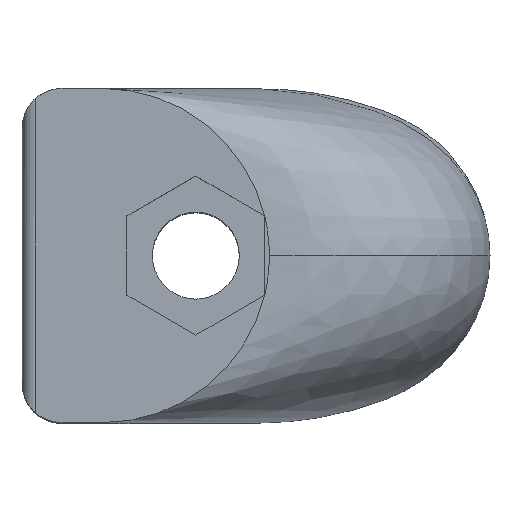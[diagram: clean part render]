
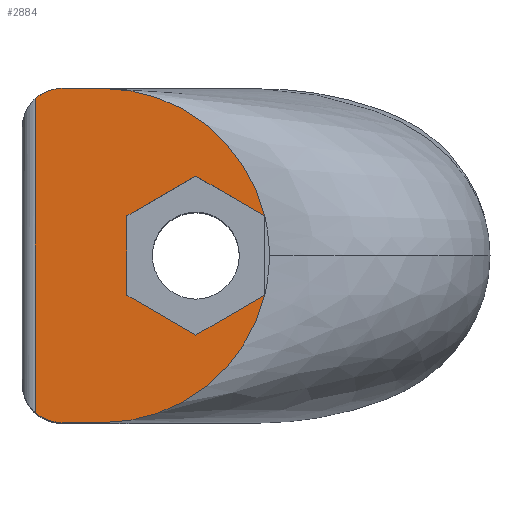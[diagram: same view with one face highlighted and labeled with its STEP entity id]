
A CAD part, top view. The second image highlights one B-rep face of the part: STEP entity #2884.
In plain terms, the highlighted planar face has unit normal (0, 0, 1) as drawn and (0, 0, -1) by its records, which use the part's own axes.
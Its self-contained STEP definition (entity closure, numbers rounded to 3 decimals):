
#12 = DIRECTION ( 'NONE',  ( 0., 0., -1. ) ) ;
#17 = EDGE_CURVE ( 'NONE', #816, #963, #1361, .T. ) ;
#152 = VERTEX_POINT ( 'NONE', #216 ) ;
#153 = VERTEX_POINT ( 'NONE', #1154 ) ;
#165 = ORIENTED_EDGE ( 'NONE', *, *, #1876, .F. ) ;
#207 = CARTESIAN_POINT ( 'NONE',  ( -10., -12.5, -20.15 ) ) ;
#213 = DIRECTION ( 'NONE',  ( 1., 0., 0. ) ) ;
#214 = CARTESIAN_POINT ( 'NONE',  ( 5.15, -2.973, -20.15 ) ) ;
#216 = CARTESIAN_POINT ( 'NONE',  ( 5.148, 2.966, -20.15 ) ) ;
#217 = LINE ( 'NONE', #2002, #1995 ) ;
#222 = CARTESIAN_POINT ( 'NONE',  ( -12., 11.736, -20.15 ) ) ;
#233 = AXIS2_PLACEMENT_3D ( 'NONE', #2518, #12, #2269 ) ;
#241 = AXIS2_PLACEMENT_3D ( 'NONE', #1383, #900, #2508 ) ;
#245 = EDGE_CURVE ( 'NONE', #652, #2352, #1376, .T. ) ;
#327 = VERTEX_POINT ( 'NONE', #1757 ) ;
#354 = CARTESIAN_POINT ( 'NONE',  ( 0., -5.947, -20.15 ) ) ;
#404 = CIRCLE ( 'NONE', #747, 12.5 ) ;
#429 = VERTEX_POINT ( 'NONE', #720 ) ;
#448 = CARTESIAN_POINT ( 'NONE',  ( 0., 5.947, -20.15 ) ) ;
#506 = AXIS2_PLACEMENT_3D ( 'NONE', #1348, #2050, #2516 ) ;
#528 = CARTESIAN_POINT ( 'NONE',  ( 5.146, -2.962, -20.15 ) ) ;
#561 = VECTOR ( 'NONE', #692, 1000. ) ;
#587 = ORIENTED_EDGE ( 'NONE', *, *, #1212, .F. ) ;
#601 = VERTEX_POINT ( 'NONE', #222 ) ;
#606 = VECTOR ( 'NONE', #213, 1000. ) ;
#620 = EDGE_CURVE ( 'NONE', #2352, #816, #2823, .T. ) ;
#652 = VERTEX_POINT ( 'NONE', #207 ) ;
#665 = LINE ( 'NONE', #2722, #1487 ) ;
#692 = DIRECTION ( 'NONE',  ( -0.866, -0.5, 0. ) ) ;
#720 = CARTESIAN_POINT ( 'NONE',  ( 0., 5.947, -20.15 ) ) ;
#747 = AXIS2_PLACEMENT_3D ( 'NONE', #2743, #1165, #1649 ) ;
#766 = EDGE_CURVE ( 'NONE', #2646, #601, #932, .T. ) ;
#797 = CARTESIAN_POINT ( 'NONE',  ( -10., -9.5, -20.15 ) ) ;
#798 = ORIENTED_EDGE ( 'NONE', *, *, #620, .F. ) ;
#816 = VERTEX_POINT ( 'NONE', #528 ) ;
#832 = ORIENTED_EDGE ( 'NONE', *, *, #1262, .F. ) ;
#900 = DIRECTION ( 'NONE',  ( 0., 0., 1. ) ) ;
#916 = CARTESIAN_POINT ( 'NONE',  ( -10., 12.5, -20.15 ) ) ;
#932 = LINE ( 'NONE', #2022, #1455 ) ;
#963 = VERTEX_POINT ( 'NONE', #354 ) ;
#969 = ORIENTED_EDGE ( 'NONE', *, *, #245, .F. ) ;
#1060 = CARTESIAN_POINT ( 'NONE',  ( -13., 12.5, -20.15 ) ) ;
#1073 = EDGE_CURVE ( 'NONE', #601, #2854, #2713, .T. ) ;
#1128 = DIRECTION ( 'NONE',  ( 0., 1., 0. ) ) ;
#1135 = CARTESIAN_POINT ( 'NONE',  ( -13., -12.5, -20.15 ) ) ;
#1139 = DIRECTION ( 'NONE',  ( -0.866, 0.5, 0. ) ) ;
#1154 = CARTESIAN_POINT ( 'NONE',  ( -7., 12.5, -20.15 ) ) ;
#1162 = CARTESIAN_POINT ( 'NONE',  ( -5.15, -2.973, -20.15 ) ) ;
#1165 = DIRECTION ( 'NONE',  ( 0., 0., 1. ) ) ;
#1212 = EDGE_CURVE ( 'NONE', #963, #1729, #217, .T. ) ;
#1232 = ORIENTED_EDGE ( 'NONE', *, *, #1073, .T. ) ;
#1259 = DIRECTION ( 'NONE',  ( -1., 0., 0. ) ) ;
#1262 = EDGE_CURVE ( 'NONE', #327, #429, #665, .T. ) ;
#1348 = CARTESIAN_POINT ( 'NONE',  ( -10., 9.5, -20.15 ) ) ;
#1350 = FACE_OUTER_BOUND ( 'NONE', #2579, .T. ) ;
#1361 = LINE ( 'NONE', #214, #561 ) ;
#1376 = LINE ( 'NONE', #1135, #606 ) ;
#1383 = CARTESIAN_POINT ( 'NONE',  ( -7., 0., -20.15 ) ) ;
#1384 = CARTESIAN_POINT ( 'NONE',  ( -7., -12.5, -20.15 ) ) ;
#1455 = VECTOR ( 'NONE', #1850, 1000. ) ;
#1464 = ORIENTED_EDGE ( 'NONE', *, *, #2275, .F. ) ;
#1482 = CARTESIAN_POINT ( 'NONE',  ( -12., -11.736, -20.15 ) ) ;
#1487 = VECTOR ( 'NONE', #1590, 1000. ) ;
#1561 = ORIENTED_EDGE ( 'NONE', *, *, #2444, .F. ) ;
#1590 = DIRECTION ( 'NONE',  ( 0.866, 0.5, 0. ) ) ;
#1633 = EDGE_CURVE ( 'NONE', #652, #2646, #1865, .T. ) ;
#1649 = DIRECTION ( 'NONE',  ( -1., 0., 0. ) ) ;
#1729 = VERTEX_POINT ( 'NONE', #2964 ) ;
#1757 = CARTESIAN_POINT ( 'NONE',  ( -5.15, 2.973, -20.15 ) ) ;
#1850 = DIRECTION ( 'NONE',  ( 0., 1., 0. ) ) ;
#1865 = CIRCLE ( 'NONE', #2949, 3. ) ;
#1876 = EDGE_CURVE ( 'NONE', #152, #153, #404, .T. ) ;
#1937 = EDGE_CURVE ( 'NONE', #429, #152, #2089, .T. ) ;
#1974 = ORIENTED_EDGE ( 'NONE', *, *, #17, .F. ) ;
#1991 = VECTOR ( 'NONE', #2276, 1000. ) ;
#1995 = VECTOR ( 'NONE', #1139, 1000. ) ;
#2002 = CARTESIAN_POINT ( 'NONE',  ( 0., -5.947, -20.15 ) ) ;
#2022 = CARTESIAN_POINT ( 'NONE',  ( -12., 0., -20.15 ) ) ;
#2050 = DIRECTION ( 'NONE',  ( 0., 0., -1. ) ) ;
#2085 = ORIENTED_EDGE ( 'NONE', *, *, #1937, .F. ) ;
#2089 = LINE ( 'NONE', #448, #1991 ) ;
#2184 = VECTOR ( 'NONE', #2873, 1000. ) ;
#2223 = ORIENTED_EDGE ( 'NONE', *, *, #766, .T. ) ;
#2269 = DIRECTION ( 'NONE',  ( -1., 0., 0. ) ) ;
#2275 = EDGE_CURVE ( 'NONE', #153, #2854, #2678, .T. ) ;
#2276 = DIRECTION ( 'NONE',  ( 0.866, -0.5, 0. ) ) ;
#2306 = LINE ( 'NONE', #1162, #2422 ) ;
#2352 = VERTEX_POINT ( 'NONE', #1384 ) ;
#2422 = VECTOR ( 'NONE', #1128, 1000. ) ;
#2444 = EDGE_CURVE ( 'NONE', #1729, #327, #2306, .T. ) ;
#2484 = ORIENTED_EDGE ( 'NONE', *, *, #1633, .T. ) ;
#2508 = DIRECTION ( 'NONE',  ( -1., 0., 0. ) ) ;
#2516 = DIRECTION ( 'NONE',  ( -1., 0., 0. ) ) ;
#2518 = CARTESIAN_POINT ( 'NONE',  ( -7., 0., -20.15 ) ) ;
#2579 = EDGE_LOOP ( 'NONE', ( #2484, #2223, #1232, #1464, #165, #2085, #832, #1561, #587, #1974, #798, #969 ) ) ;
#2622 = DIRECTION ( 'NONE',  ( 0., 0., -1. ) ) ;
#2646 = VERTEX_POINT ( 'NONE', #1482 ) ;
#2678 = LINE ( 'NONE', #1060, #2184 ) ;
#2713 = CIRCLE ( 'NONE', #506, 3. ) ;
#2722 = CARTESIAN_POINT ( 'NONE',  ( -5.15, 2.973, -20.15 ) ) ;
#2743 = CARTESIAN_POINT ( 'NONE',  ( -7., 0., -20.15 ) ) ;
#2823 = CIRCLE ( 'NONE', #241, 12.5 ) ;
#2854 = VERTEX_POINT ( 'NONE', #916 ) ;
#2873 = DIRECTION ( 'NONE',  ( -1., 0., 0. ) ) ;
#2884 = ADVANCED_FACE ( 'NONE', ( #1350 ), #2925, .T. ) ;
#2925 = PLANE ( 'NONE',  #233 ) ;
#2949 = AXIS2_PLACEMENT_3D ( 'NONE', #797, #2622, #1259 ) ;
#2964 = CARTESIAN_POINT ( 'NONE',  ( -5.15, -2.973, -20.15 ) ) ;
